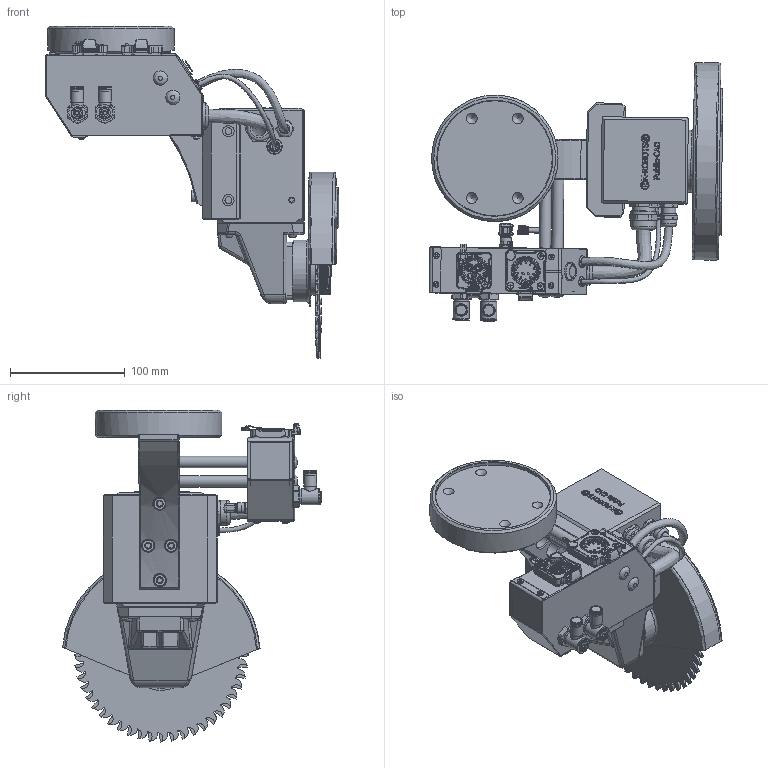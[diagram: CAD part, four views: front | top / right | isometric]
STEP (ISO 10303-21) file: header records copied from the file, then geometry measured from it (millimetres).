
FILE_DESCRIPTION(/* description */ (''),/* implementation_level */ '2;1');
FILE_NAME(/* name */ '',/* time_stamp */ '2026-05-17T11:34:08+02:00',/* author */ ('karan'),/* organization */ (''),/* preprocessor_version */ 'ST-DEVELOPER v20',/* originating_system */ 'Autodesk Inventor 2024',/* authorisation */ '');
FILE_SCHEMA (('AUTOMOTIVE_DESIGN { 1 0 10303 214 3 1 1 }'));
Products named in the file (1): ERS-150_Упростить_
1
Bounding box: 255.52 x 225.17 x 288.8 mm (x, y, z)
Surface area: 332188.6 mm2
Topology: 25 solids, 136 shells, 4251 faces, 13702 edges, 9412 vertices
Faces by surface type: plane 1960, cylinder 925, bspline 881, cone 270, torus 177, sphere 38
Full cylindrical faces by diameter (mm): 3 x3, 4.5 x3, 4.9 x1, 5 x8, 5.5 x4, 6 x1, 7 x2, 7.4 x6, 9 x5, 9.5 x2, 9.7 x1, 9.75 x4, 10 x9, 10.5 x3, 11 x4, 12 x1, 13 x2, 13.5 x6, 13.8 x2, 14 x7, 16 x1, 17.7 x1, 17.8 x1, 18.7 x1, 19.9 x1, 20 x1, 21.8 x2, 22 x1, 23.175 x1, 25 x1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
Entity records: 191645 total; most frequent: CARTESIAN_POINT 74489, ORIENTED_EDGE 23601, DIRECTION 20828, EDGE_CURVE 13649, VERTEX_POINT 9412, LINE 7556, VECTOR 7556, AXIS2_PLACEMENT_3D 6636
